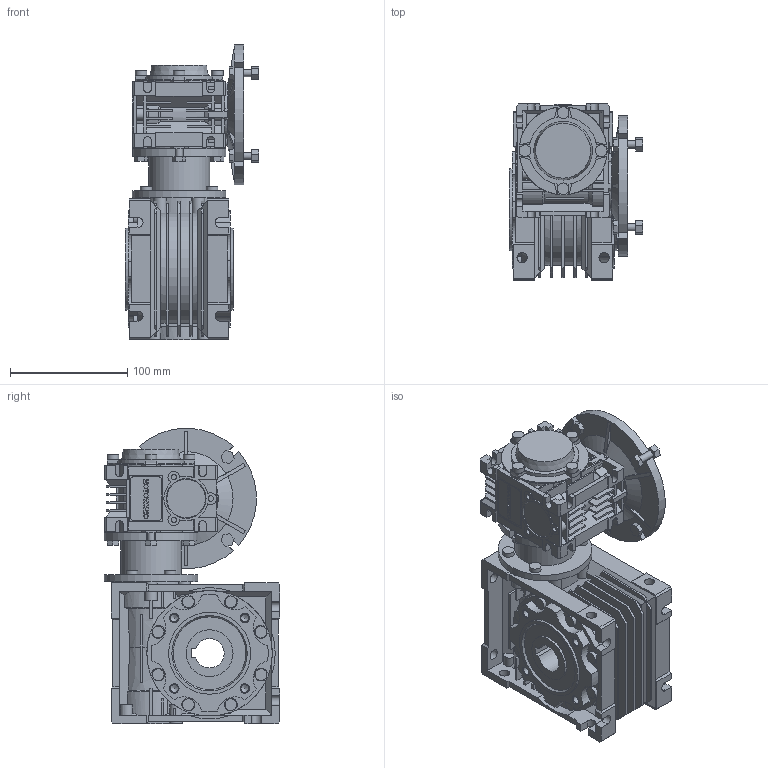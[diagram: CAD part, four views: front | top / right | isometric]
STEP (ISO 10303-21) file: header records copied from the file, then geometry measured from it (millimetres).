
FILE_DESCRIPTION(/* description */ ('STEP AP214'),/* implementation_level */ '2;1');
FILE_NAME(/* name */ 'NMRV-NMRV030-050100 (10x10)31125NO11NO00NO---(--------)',/* time_stamp */ '2024-10-22T10:42:00+02:00',/* author */ ('License CC BY-ND 4.0'),/* organization */ ('CADENAS'),/* preprocessor_version */ 'ST-DEVELOPER v19.3',/* originating_system */ 'PARTsolutions',/* authorisation */ ' ');
FILE_SCHEMA (('AUTOMOTIVE_DESIGN {1 0 10303 214 3 1 1}'));
Length unit declared in the file: millimetre
Products named in the file (13): NMRV-NMRV030-050100 (10x10)31125NO11NO00NO---(--------); 030-050100 (10x10)3114125No11No00NO---(--------)-d; 030-050100 (10x10)31125No11No00NO---d1; 030-050100 (10x10)31125No11No00T0561-d1; Gear unit 50; 050-25 (92)alc-n; VB 050-14 (14); Gear unit 30; 030-14 (63)alc-n; FT 030-050; Hollow shaft 30; VB 030-09 (9); 30-56 B5
Assembly tree (13 placements, depth 2):
  NMRV-NMRV030-050100 (10x10)31125NO11NO00NO---(--------)
    030-050100 (10x10)3114125No11No00NO---(--------)-d
    030-050100 (10x10)31125No11No00NO---d1
    030-050100 (10x10)31125No11No00T0561-d1  x2
    Gear unit 50
    050-25 (92)alc-n
    VB 050-14 (14)
    Gear unit 30
    030-14 (63)alc-n
    FT 030-050
    Hollow shaft 30
    VB 030-09 (9)
    30-56 B5
Bounding box: 114 x 150 x 251.8 mm (x, y, z)
Volume: 1549857.7 mm3; surface area: 365759.7 mm2
Topology: 9 solids, 21 shells, 1712 faces, 4534 edges, 2958 vertices
Faces by surface type: plane 1270, cylinder 348, cone 92, torus 2
Full cylindrical faces by diameter (mm): 3.545 x3, 3.775 x3, 4.65 x3, 4.917 x8, 5.55 x4, 6 x8, 6.647 x8, 8.8 x8, 10 x20, 16 x1, 19 x2, 24.8 x2, 28 x2, 30 x2, 34 x1, 37 x1, 38 x1, 40 x2, 47 x1, 52 x1, 55 x4, 70 x2, 75 x1, 78.5 x1, 80 x2, 107 x1
Entity records: 63948 total; most frequent: CARTESIAN_POINT 9691, ORIENTED_EDGE 8726, DIRECTION 8623, EDGE_CURVE 4363, LINE 3163, VECTOR 3163, VERTEX_POINT 2935, AXIS2_PLACEMENT_3D 2730
